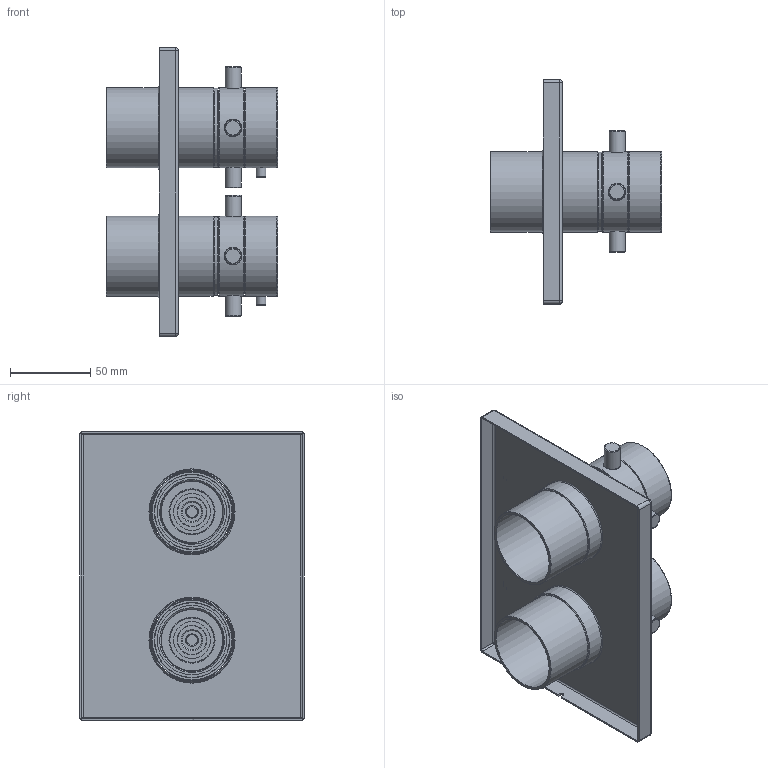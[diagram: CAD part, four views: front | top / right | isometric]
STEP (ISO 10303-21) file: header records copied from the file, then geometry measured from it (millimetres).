
FILE_DESCRIPTION(/* description */ (''),/* implementation_level */ '2;1');
FILE_NAME(/* name */ 'X:\Collections\Moderne\Pallace\PA88\TPATQ88+ 3D.stp',/* time_stamp */ '2017-05-04T07:14:56-04:00',/* author */ ('simono'),/* organization */ (''),/* preprocessor_version */ 'ST-DEVELOPER v15.6',/* originating_system */ 'Autodesk Inventor 2015',/* authorisation */ '');
FILE_SCHEMA (('AUTOMOTIVE_DESIGN { 1 0 10303 214 3 1 1 }'));
Length unit declared in the file: millimetre
Products named in the file (17): 053-004; 052-071; 001-269; 002-691; 152-120; 1823; 002-612; 009-078; 009-077; 390-132; 1925; 1825; 152-160; 1822; 1650; 050-488; TPA88
Assembly tree (22 placements, depth 5):
  TPA88
    053-004  x2
    052-071  x2
    1650  x2
      1825
        001-269
        1823  x2
          002-691
          152-120
        1925
          002-612
          009-078
          009-077
          390-132
      1822
        002-691
        152-160
    050-488
Bounding box: 106.78 x 140 x 180 mm (x, y, z)
Volume: 142925.5 mm3; surface area: 174409.4 mm2
Topology: 31 solids, 31 shells, 1188 faces, 2964 edges, 1908 vertices
Faces by surface type: plane 485, cylinder 237, bspline 190, cone 174, torus 90, sphere 12
Full cylindrical faces by diameter (mm): 2.2 x2, 2.5 x4, 3 x2, 3.242 x2, 4.134 x8, 5 x12, 6 x4, 10 x8, 10.5 x8, 12 x2, 15 x2, 18 x2, 19 x2, 19.75 x2, 21 x2, 23 x2, 25 x2, 28.2 x4, 29.2 x2, 32.2 x4, 34.3 x4, 35.3 x2, 37.5 x2, 43.2 x2, 45 x2, 46 x2, 46.6 x2, 47 x4, 49.5 x2, 50 x6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
Entity records: 22348 total; most frequent: CARTESIAN_POINT 9180, ORIENTED_EDGE 2676, DIRECTION 2433, EDGE_CURVE 1338, VERTEX_POINT 921, AXIS2_PLACEMENT_3D 895, EDGE_LOOP 755, LINE 643
